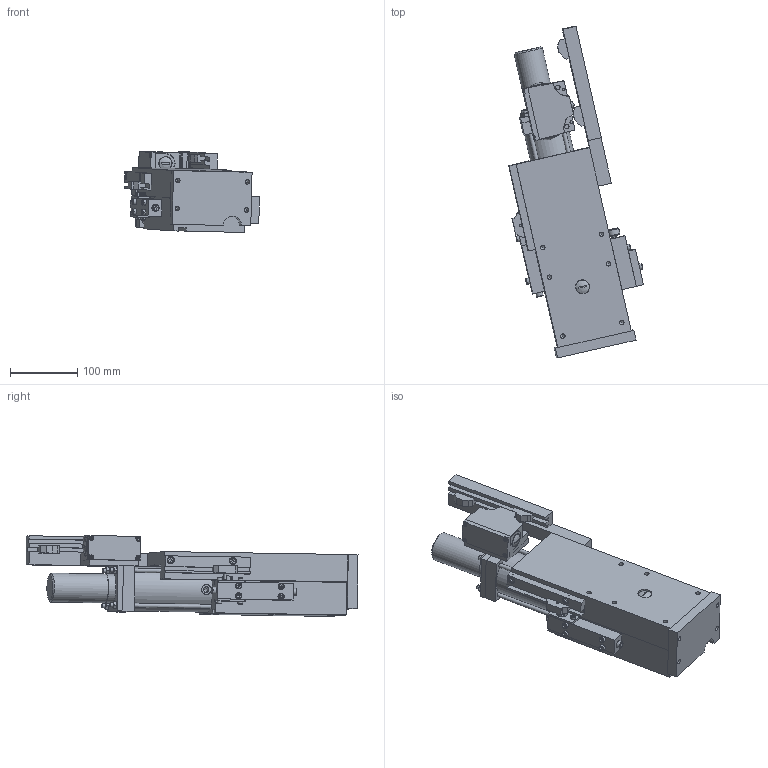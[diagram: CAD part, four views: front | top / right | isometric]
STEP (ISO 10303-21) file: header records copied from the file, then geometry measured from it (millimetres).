
FILE_DESCRIPTION((''),'2;1');
FILE_NAME('C:\VaultWork\Zeichnungen\Maßblätter\H60\VE01518-3-0 Maßblatt Vorschubschlitten H60-80 mit Griffhülse.stp','2010-06-23T09:50:11',('Test'),(''),'Autodesk Inventor 2008','Autodesk Inventor 2008','');
FILE_SCHEMA(('AUTOMOTIVE_DESIGN { 1 0 10303 214 1 1 1 1 }'));
Length unit declared in the file: millimetre
Products named in the file (1): VE01518-3-0 Maßblatt Vorschubschlitten H60-80 mit Griffhülse
Bounding box: 200.92 x 494.5 x 120.41 mm (x, y, z)
Volume: 3539833.6 mm3; surface area: 373285 mm2
Topology: 1 solids, 12 shells, 726 faces, 1858 edges, 1208 vertices
Faces by surface type: plane 497, cylinder 91, bspline 64, cone 44, torus 29, sphere 1
Full cylindrical faces by diameter (mm): 4 x7, 5.5 x2, 5.9 x2, 6 x14, 6.6 x2, 7 x4, 8.5 x9, 9.98 x2, 10 x8, 15 x2, 17 x1, 18 x1, 20 x3, 43 x1, 44 x1, 66 x1
Entity records: 22212 total; most frequent: CARTESIAN_POINT 5342, ORIENTED_EDGE 3202, DIRECTION 3133, EDGE_CURVE 1601, VERTEX_POINT 1125, VECTOR 1051, LINE 1051, AXIS2_PLACEMENT_3D 1041
